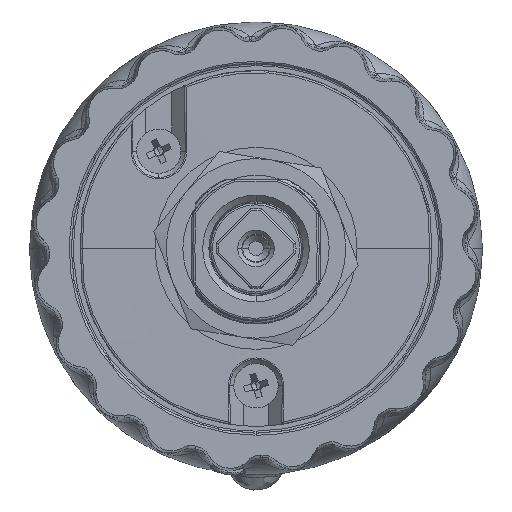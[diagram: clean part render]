
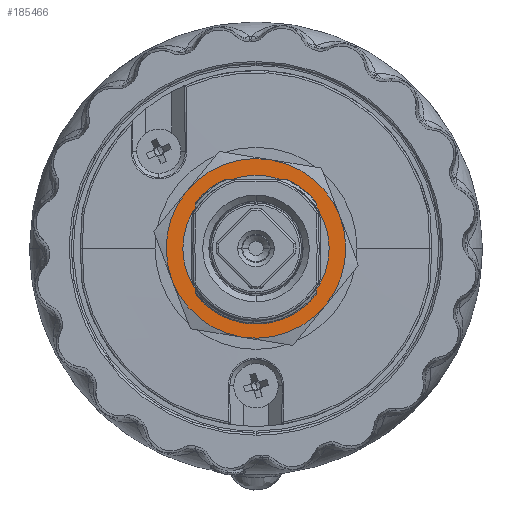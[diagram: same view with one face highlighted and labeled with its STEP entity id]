
A CAD part, front view. The second image highlights one B-rep face of the part: STEP entity #185466.
In plain terms, the highlighted planar face has unit normal (0, -1, 0).
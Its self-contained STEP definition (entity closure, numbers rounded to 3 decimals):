
#1038 = AXIS2_PLACEMENT_3D ( 'NONE', #11790, #72589, #13756 ) ;
#5108 = AXIS2_PLACEMENT_3D ( 'NONE', #73705, #25930, #54826 ) ;
#5617 = CIRCLE ( 'NONE', #158337, 11.11 ) ;
#8790 = AXIS2_PLACEMENT_3D ( 'NONE', #13992, #74753, #90744 ) ;
#11248 = ORIENTED_EDGE ( 'NONE', *, *, #192911, .F. ) ;
#11790 = CARTESIAN_POINT ( 'NONE',  ( -9.292, 15.61, 12.903 ) ) ;
#13756 = DIRECTION ( 'NONE',  ( -0.161, 0., -0.987 ) ) ;
#13992 = CARTESIAN_POINT ( 'NONE',  ( 0., 15.61, 0. ) ) ;
#14640 = CIRCLE ( 'NONE', #5108, 11.11 ) ;
#15470 = AXIS2_PLACEMENT_3D ( 'NONE', #135846, #125876, #126849 ) ;
#15944 = CARTESIAN_POINT ( 'NONE',  ( 0., 15.61, 0. ) ) ;
#18343 = CIRCLE ( 'NONE', #8790, 11.11 ) ;
#19615 = VERTEX_POINT ( 'NONE', #189049 ) ;
#21755 = CIRCLE ( 'NONE', #98176, 11.11 ) ;
#25930 = DIRECTION ( 'NONE',  ( 0., -1., 0. ) ) ;
#26264 = DIRECTION ( 'NONE',  ( 0., -1., 0. ) ) ;
#36795 = CARTESIAN_POINT ( 'NONE',  ( 0., 15.61, 0. ) ) ;
#37428 = VERTEX_POINT ( 'NONE', #63939 ) ;
#37632 = EDGE_CURVE ( 'NONE', #120042, #147473, #18343, .T. ) ;
#37782 = DIRECTION ( 'NONE',  ( 0.161, 0., 0.987 ) ) ;
#45035 = CARTESIAN_POINT ( 'NONE',  ( -1.784, 15.61, -10.966 ) ) ;
#47320 = DIRECTION ( 'NONE',  ( 0.161, 0., 0.987 ) ) ;
#49125 = VERTEX_POINT ( 'NONE', #166329 ) ;
#50985 = CARTESIAN_POINT ( 'NONE',  ( -1.453, 15.61, -8.933 ) ) ;
#52501 = EDGE_LOOP ( 'NONE', ( #185335, #11248 ) ) ;
#53994 = VERTEX_POINT ( 'NONE', #96424 ) ;
#54826 = DIRECTION ( 'NONE',  ( 0.161, 0., 0.987 ) ) ;
#57255 = ORIENTED_EDGE ( 'NONE', *, *, #191073, .T. ) ;
#60937 = EDGE_CURVE ( 'NONE', #53994, #19615, #14640, .T. ) ;
#63939 = CARTESIAN_POINT ( 'NONE',  ( 1.453, 15.61, 8.933 ) ) ;
#69680 = CIRCLE ( 'NONE', #15470, 11.11 ) ;
#72589 = DIRECTION ( 'NONE',  ( 0., -1., 0. ) ) ;
#73705 = CARTESIAN_POINT ( 'NONE',  ( 0., 15.61, 0. ) ) ;
#74753 = DIRECTION ( 'NONE',  ( 0., -1., 0. ) ) ;
#77381 = VERTEX_POINT ( 'NONE', #50985 ) ;
#90744 = DIRECTION ( 'NONE',  ( 0.161, 0., 0.987 ) ) ;
#96424 = CARTESIAN_POINT ( 'NONE',  ( 8.605, 15.61, -7.028 ) ) ;
#97534 = CIRCLE ( 'NONE', #138659, 11.11 ) ;
#97670 = DIRECTION ( 'NONE',  ( 0., -1., 0. ) ) ;
#98176 = AXIS2_PLACEMENT_3D ( 'NONE', #151000, #137982, #47320 ) ;
#98539 = DIRECTION ( 'NONE',  ( 0., -1., 0. ) ) ;
#102414 = CARTESIAN_POINT ( 'NONE',  ( 1.784, 15.61, 10.966 ) ) ;
#103048 = DIRECTION ( 'NONE',  ( 0.161, 0., 0.987 ) ) ;
#103333 = EDGE_CURVE ( 'NONE', #121813, #53994, #5617, .T. ) ;
#103531 = FACE_OUTER_BOUND ( 'NONE', #158954, .T. ) ;
#108078 = EDGE_CURVE ( 'NONE', #37428, #77381, #163247, .T. ) ;
#109611 = DIRECTION ( 'NONE',  ( 0., -1., 0. ) ) ;
#120042 = VERTEX_POINT ( 'NONE', #102414 ) ;
#121813 = VERTEX_POINT ( 'NONE', #45035 ) ;
#125474 = CARTESIAN_POINT ( 'NONE',  ( 0., 15.61, 0. ) ) ;
#125876 = DIRECTION ( 'NONE',  ( 0., -1., 0. ) ) ;
#126849 = DIRECTION ( 'NONE',  ( 0.161, 0., 0.987 ) ) ;
#133363 = FACE_BOUND ( 'NONE', #52501, .T. ) ;
#135299 = PLANE ( 'NONE',  #1038 ) ;
#135846 = CARTESIAN_POINT ( 'NONE',  ( 0., 15.61, 0. ) ) ;
#137421 = DIRECTION ( 'NONE',  ( 0.161, 0., 0.987 ) ) ;
#137982 = DIRECTION ( 'NONE',  ( 0., -1., 0. ) ) ;
#138659 = AXIS2_PLACEMENT_3D ( 'NONE', #15944, #109611, #137421 ) ;
#141045 = ORIENTED_EDGE ( 'NONE', *, *, #37632, .T. ) ;
#143918 = ORIENTED_EDGE ( 'NONE', *, *, #191445, .T. ) ;
#147473 = VERTEX_POINT ( 'NONE', #159132 ) ;
#151000 = CARTESIAN_POINT ( 'NONE',  ( 0., 15.61, 0. ) ) ;
#155176 = CIRCLE ( 'NONE', #161567, 9.05 ) ;
#158337 = AXIS2_PLACEMENT_3D ( 'NONE', #161769, #26264, #103048 ) ;
#158954 = EDGE_LOOP ( 'NONE', ( #141045, #143918, #57255, #170210, #162431, #172273 ) ) ;
#159132 = CARTESIAN_POINT ( 'NONE',  ( -8.605, 15.61, 7.028 ) ) ;
#161448 = EDGE_CURVE ( 'NONE', #19615, #120042, #97534, .T. ) ;
#161567 = AXIS2_PLACEMENT_3D ( 'NONE', #36795, #97670, #37782 ) ;
#161769 = CARTESIAN_POINT ( 'NONE',  ( 0., 15.61, 0. ) ) ;
#162431 = ORIENTED_EDGE ( 'NONE', *, *, #60937, .T. ) ;
#163247 = CIRCLE ( 'NONE', #188629, 9.05 ) ;
#166329 = CARTESIAN_POINT ( 'NONE',  ( -10.389, 15.61, -3.938 ) ) ;
#170210 = ORIENTED_EDGE ( 'NONE', *, *, #103333, .T. ) ;
#172273 = ORIENTED_EDGE ( 'NONE', *, *, #161448, .T. ) ;
#185335 = ORIENTED_EDGE ( 'NONE', *, *, #108078, .F. ) ;
#185466 = ADVANCED_FACE ( 'NONE', ( #133363, #103531 ), #135299, .T. ) ;
#186123 = DIRECTION ( 'NONE',  ( 0.161, 0., 0.987 ) ) ;
#188629 = AXIS2_PLACEMENT_3D ( 'NONE', #125474, #98539, #186123 ) ;
#189049 = CARTESIAN_POINT ( 'NONE',  ( 10.389, 15.61, 3.938 ) ) ;
#191073 = EDGE_CURVE ( 'NONE', #49125, #121813, #21755, .T. ) ;
#191445 = EDGE_CURVE ( 'NONE', #147473, #49125, #69680, .T. ) ;
#192911 = EDGE_CURVE ( 'NONE', #77381, #37428, #155176, .T. ) ;
